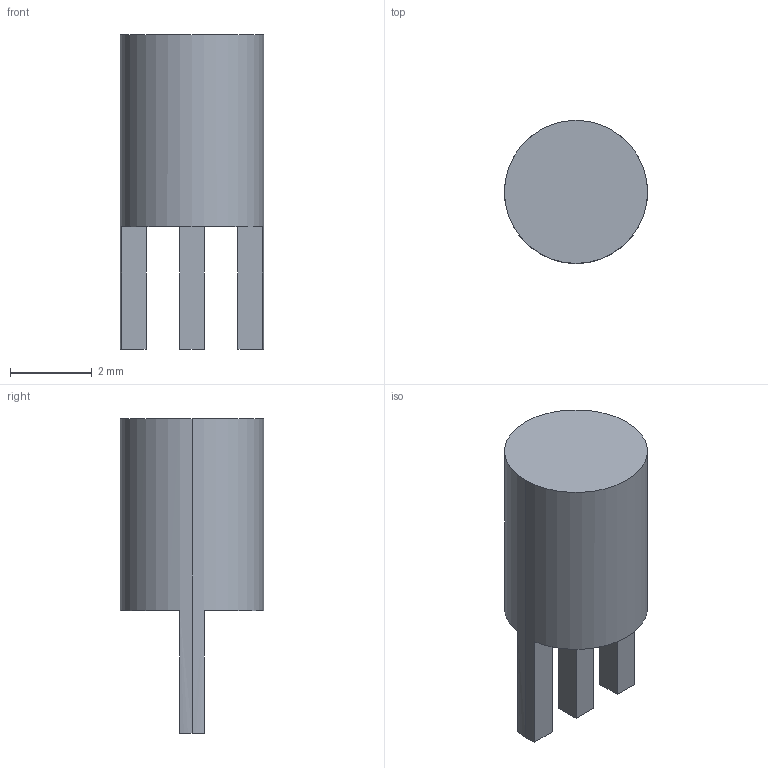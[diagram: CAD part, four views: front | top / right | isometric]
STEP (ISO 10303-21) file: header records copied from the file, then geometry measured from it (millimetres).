
FILE_DESCRIPTION((''),'2;1');
FILE_NAME('GPS-ANT-EXT-CONN_PRT','2008-06-30T',('GRA'),(''),'PRO/ENGINEER BY PARAMETRIC TECHNOLOGY CORPORATION, 2006170','PRO/ENGINEER BY PARAMETRIC TECHNOLOGY CORPORATION, 2006170','');
FILE_SCHEMA(('CONFIG_CONTROL_DESIGN'));
Length unit declared in the file: millimetre
Products named in the file (1): GPS-ANT-EXT-CONN_PRT
Bounding box: 3.5 x 3.5 x 7.7 mm (x, y, z)
Volume: 48.5 mm3; surface area: 92.5 mm2
Topology: 1 solids, 1 shells, 17 faces, 42 edges, 28 vertices
Faces by surface type: plane 15, cylinder 2
Entity records: 542 total; most frequent: CARTESIAN_POINT 87, DIRECTION 84, ORIENTED_EDGE 84, EDGE_CURVE 42, VECTOR 34, LINE 34, VERTEX_POINT 28, AXIS2_PLACEMENT_3D 25
